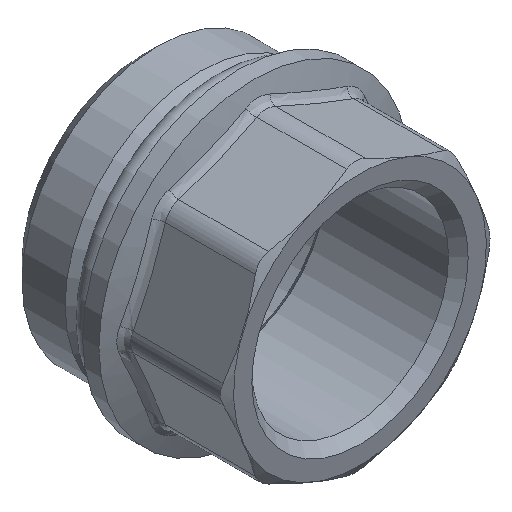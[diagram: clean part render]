
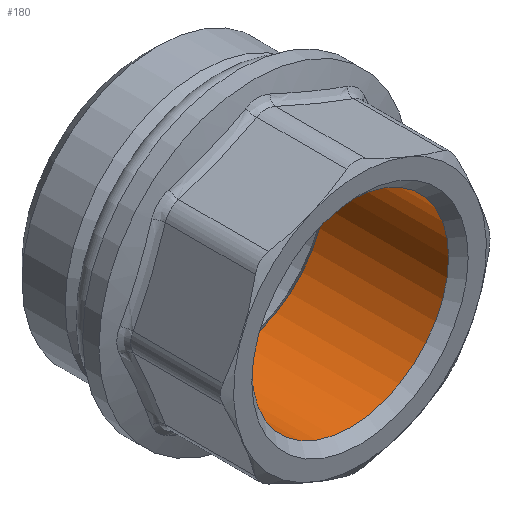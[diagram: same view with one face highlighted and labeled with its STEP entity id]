
A CAD part, isometric view. The second image highlights one B-rep face of the part: STEP entity #180.
In plain terms, the highlighted cylindrical face has radius 12.059 mm (diameter 24.118 mm), a full revolution.
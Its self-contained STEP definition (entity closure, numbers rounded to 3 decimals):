
#180=ADVANCED_FACE('',(#291,#293),#295,.F.);
#291=FACE_OUTER_BOUND('',#292,.T.);
#292=EDGE_LOOP('',(#1497));
#293=FACE_OUTER_BOUND('',#294,.T.);
#294=EDGE_LOOP('',(#1498));
#295=CYLINDRICAL_SURFACE('',#296,12.059);
#296=AXIS2_PLACEMENT_3D('',#297,#298,#299);
#297=CARTESIAN_POINT('',(0.,14.8,0.));
#298=DIRECTION('',(0.,-1.,0.));
#299=DIRECTION('',(1.,0.,0.));
#1497=ORIENTED_EDGE('',*,*,#1697,.T.);
#1498=ORIENTED_EDGE('',*,*,#1698,.F.);
#1697=EDGE_CURVE('',#1797,#1797,#1798,.T.);
#1698=EDGE_CURVE('',#1799,#1799,#1800,.F.);
#1797=VERTEX_POINT('',#1963);
#1798=CIRCLE('',#1964,12.059);
#1799=VERTEX_POINT('',#1968);
#1800=CIRCLE('',#1969,12.059);
#1963=CARTESIAN_POINT('',(12.059,3.305,0.));
#1964=AXIS2_PLACEMENT_3D('',#1965,#1966,#1967);
#1965=CARTESIAN_POINT('',(0.,3.305,0.));
#1966=DIRECTION('',(0.,1.,0.));
#1967=DIRECTION('',(1.,0.,0.));
#1968=CARTESIAN_POINT('',(12.059,-11.8,0.));
#1969=AXIS2_PLACEMENT_3D('',#1970,#1971,#1972);
#1970=CARTESIAN_POINT('',(0.,-11.8,0.));
#1971=DIRECTION('',(0.,-1.,0.));
#1972=DIRECTION('',(1.,0.,0.));
